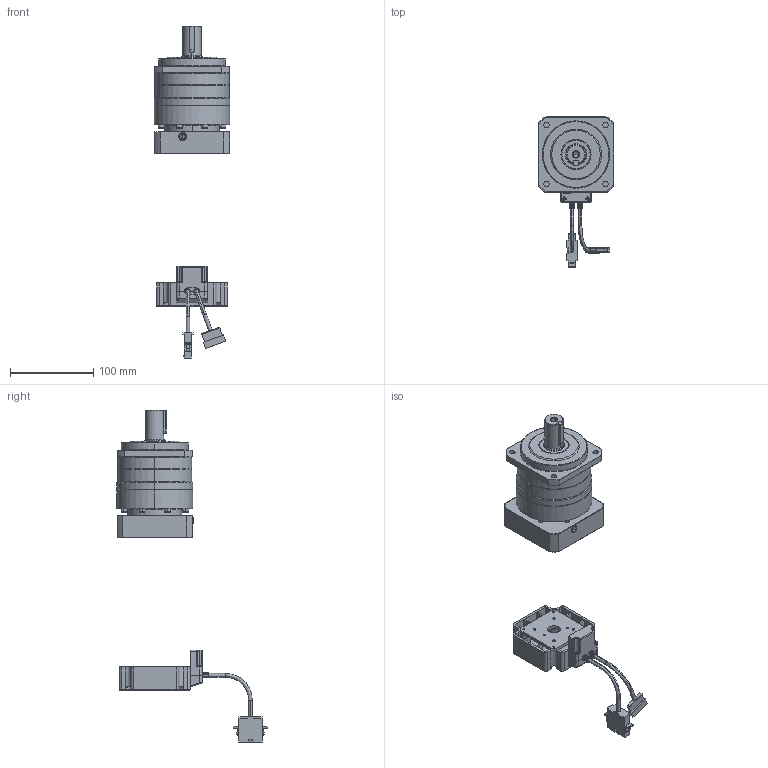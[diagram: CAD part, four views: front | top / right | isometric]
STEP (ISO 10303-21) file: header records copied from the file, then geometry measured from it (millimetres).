
FILE_DESCRIPTION (( 'STEP AP203' ), '1' );
FILE_NAME ('130416 Ezi-SERVO PG-ST-86XL-PN3~10.STEP', '2013-04-16T08:34:21', ( '' ), ( '' ), 'SwSTEP 2.0', 'SolidWorks 2012', '' );
FILE_SCHEMA (( 'CONFIG_CONTROL_DESIGN' ));
Products named in the file (15): 130416 Ezi-SERVO PG-ST-86XL-PN3~10; ST86 1ST; Main_EzM-86L-assembly___-1; Main_EzM-86L___-1; Main_EZSV_86_cable_Cover___-1_1; Main_EZSV_86_Encoder_Cover___-1_1; Main_86_Encoder_Plate___-1_1; Main_M3-screw6___-1_1; Main_M3-screw1___-1_1; Main_M3-screw4___-1_1; Main_M3-screw2___-1_1; Main_M3-screw3___-1_1; Main_M3-screw5___-1_1; Main_Power Cable 86___-1_1; Main_connector_e___-1_1
Assembly tree (14 placements, depth 3):
  130416 Ezi-SERVO PG-ST-86XL-PN3~10
    Main_EzM-86L-assembly___-1
      Main_connector_e___-1_1
      Main_Power Cable 86___-1_1
      Main_M3-screw5___-1_1
      Main_M3-screw3___-1_1
      Main_M3-screw2___-1_1
      Main_M3-screw4___-1_1
      Main_M3-screw1___-1_1
      Main_M3-screw6___-1_1
      Main_86_Encoder_Plate___-1_1
      Main_EZSV_86_Encoder_Cover___-1_1
      Main_EZSV_86_cable_Cover___-1_1
      Main_EzM-86L___-1
    ST86 1ST
Bounding box: 91 x 180.24 x 398 mm (x, y, z)
Volume: 754261.4 mm3; surface area: 134655.5 mm2
Topology: 12 solids, 12 shells, 1179 faces, 3031 edges, 1906 vertices
Faces by surface type: plane 618, cylinder 360, cone 108, bspline 48, torus 45
Entity records: 48013 total; most frequent: CARTESIAN_POINT 14267, ORIENTED_EDGE 6788, DIRECTION 6548, EDGE_CURVE 3395, AXIS2_PLACEMENT_3D 2303, VERTEX_POINT 2189, VECTOR 1942, LINE 1942
